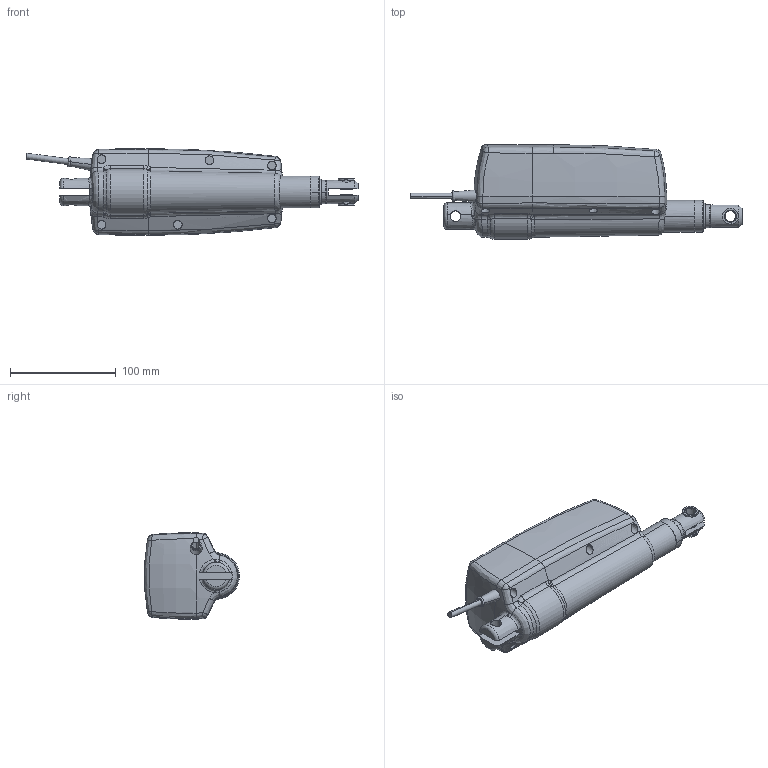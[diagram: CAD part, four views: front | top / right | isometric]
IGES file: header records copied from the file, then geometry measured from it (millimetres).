
Start section:  PTC IGES file: la28.igs
Global section: file name: la28.igs; native system: Pro/ENGINEER by Parametric Technology Corporation; preprocessor: 2005110; author: KH; organization: Unknown; date: 060203.134419; units: millimetre
Bounding box: 314.08 x 89.6 x 82 mm (x, y, z)
Volume: 1016032.7 mm3; surface area: 71789.2 mm2
Topology: 1 solids, 1 shells, 201 faces, 479 edges, 288 vertices
Faces by surface type: revolution 106, bspline 91, extrusion 4
